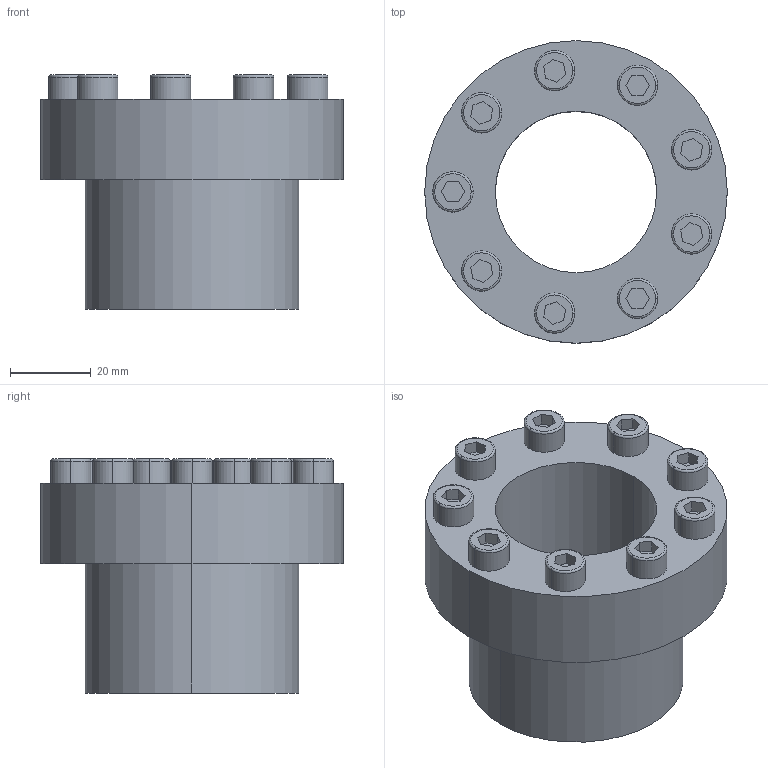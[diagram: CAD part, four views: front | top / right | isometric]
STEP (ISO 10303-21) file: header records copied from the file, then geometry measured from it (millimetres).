
FILE_DESCRIPTION (( 'STEP AP203' ), '1' );
FILE_NAME ('PL-C 40-53.STEP', '2021-10-22T08:40:11', ( '' ), ( '' ), 'SwSTEP 2.0', 'SolidWorks 2018', '' );
FILE_SCHEMA (( 'CONFIG_CONTROL_DESIGN' ));
Length unit declared in the file: millimetre
Products named in the file (1): PL-C 40-53
Bounding box: 75 x 75 x 58 mm (x, y, z)
Volume: 97251.8 mm3; surface area: 24999.9 mm2
Topology: 1 solids, 1 shells, 117 faces, 270 edges, 174 vertices
Faces by surface type: plane 75, cylinder 24, torus 18
Entity records: 3385 total; most frequent: DIRECTION 590, CARTESIAN_POINT 562, ORIENTED_EDGE 540, EDGE_CURVE 270, AXIS2_PLACEMENT_3D 202, LINE 186, VECTOR 186, VERTEX_POINT 174
